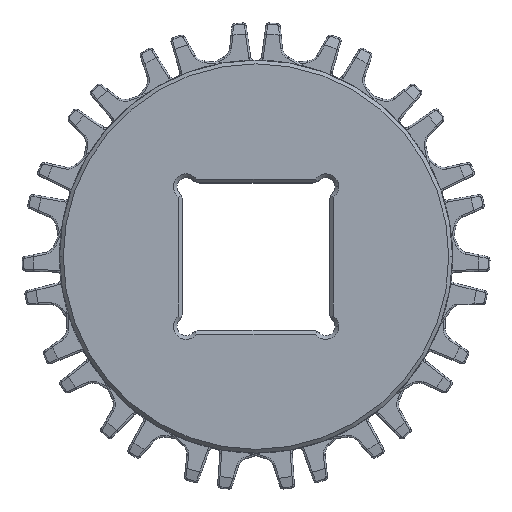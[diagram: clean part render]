
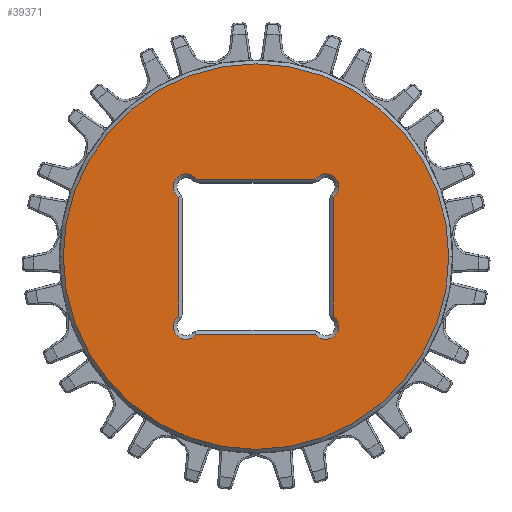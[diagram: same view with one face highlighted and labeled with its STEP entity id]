
A CAD part, top view. The second image highlights one B-rep face of the part: STEP entity #39371.
In plain terms, the highlighted planar face has unit normal (0, 0, 1).
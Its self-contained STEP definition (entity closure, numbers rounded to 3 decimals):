
#134 = EDGE_CURVE ( 'NONE', #33131, #5195, #1213, .T. ) ;
#226 = PLANE ( 'NONE',  #16762 ) ;
#416 = DIRECTION ( 'NONE',  ( 0., 0., 1. ) ) ;
#1213 = LINE ( 'NONE', #40189, #36741 ) ;
#1322 = VERTEX_POINT ( 'NONE', #5940 ) ;
#1722 = CARTESIAN_POINT ( 'NONE',  ( -16.21, -21.1, 12.5 ) ) ;
#2554 = ORIENTED_EDGE ( 'NONE', *, *, #38477, .T. ) ;
#2753 = ORIENTED_EDGE ( 'NONE', *, *, #31483, .T. ) ;
#2982 = ORIENTED_EDGE ( 'NONE', *, *, #19432, .T. ) ;
#2991 = DIRECTION ( 'NONE',  ( 0., 0., -1. ) ) ;
#3029 = CARTESIAN_POINT ( 'NONE',  ( 19.039, -19.039, 12.5 ) ) ;
#3039 = VERTEX_POINT ( 'NONE', #8738 ) ;
#3545 = CARTESIAN_POINT ( 'NONE',  ( 22.539, -19.039, 12.5 ) ) ;
#4918 = AXIS2_PLACEMENT_3D ( 'NONE', #14673, #27992, #41724 ) ;
#5195 = VERTEX_POINT ( 'NONE', #1722 ) ;
#5271 = CIRCLE ( 'NONE', #23607, 3.5 ) ;
#5940 = CARTESIAN_POINT ( 'NONE',  ( 22.539, 19.039, 12.5 ) ) ;
#6033 = EDGE_CURVE ( 'NONE', #3039, #20236, #19074, .T. ) ;
#6408 = CARTESIAN_POINT ( 'NONE',  ( -0.004, -0.001, 12.5 ) ) ;
#6925 = LINE ( 'NONE', #25524, #15022 ) ;
#6945 = EDGE_LOOP ( 'NONE', ( #31752, #30638 ) ) ;
#7321 = CARTESIAN_POINT ( 'NONE',  ( -0.004, -0.001, 12.5 ) ) ;
#8237 = CARTESIAN_POINT ( 'NONE',  ( -19.039, -19.039, 12.5 ) ) ;
#8738 = CARTESIAN_POINT ( 'NONE',  ( -52.538, -0.001, 12.5 ) ) ;
#9526 = VERTEX_POINT ( 'NONE', #43335 ) ;
#9810 = CIRCLE ( 'NONE', #36914, 3.5 ) ;
#10173 = CARTESIAN_POINT ( 'NONE',  ( -19.039, 19.039, 12.5 ) ) ;
#10195 = VERTEX_POINT ( 'NONE', #44237 ) ;
#10942 = ORIENTED_EDGE ( 'NONE', *, *, #37783, .T. ) ;
#11383 = DIRECTION ( 'NONE',  ( 1., 0., 0. ) ) ;
#11923 = FACE_OUTER_BOUND ( 'NONE', #6945, .T. ) ;
#12799 = VECTOR ( 'NONE', #15060, 1000. ) ;
#13268 = EDGE_CURVE ( 'NONE', #30523, #39311, #19638, .T. ) ;
#14643 = FACE_BOUND ( 'NONE', #21068, .T. ) ;
#14673 = CARTESIAN_POINT ( 'NONE',  ( 19.039, 19.039, 12.5 ) ) ;
#14756 = AXIS2_PLACEMENT_3D ( 'NONE', #37887, #20673, #28919 ) ;
#14868 = DIRECTION ( 'NONE',  ( 1., 0., 0. ) ) ;
#15022 = VECTOR ( 'NONE', #24911, 1000. ) ;
#15060 = DIRECTION ( 'NONE',  ( 0., -1., 0. ) ) ;
#15301 = VECTOR ( 'NONE', #39171, 1000. ) ;
#16131 = DIRECTION ( 'NONE',  ( 1., 0., 0. ) ) ;
#16584 = LINE ( 'NONE', #18554, #12799 ) ;
#16762 = AXIS2_PLACEMENT_3D ( 'NONE', #6408, #41113, #27672 ) ;
#17215 = EDGE_CURVE ( 'NONE', #23342, #9526, #6925, .T. ) ;
#17379 = CIRCLE ( 'NONE', #44043, 3.5 ) ;
#17649 = ORIENTED_EDGE ( 'NONE', *, *, #13268, .T. ) ;
#18508 = DIRECTION ( 'NONE',  ( 0., 0., -1. ) ) ;
#18554 = CARTESIAN_POINT ( 'NONE',  ( 21.1, -16.775, 12.5 ) ) ;
#19074 = CIRCLE ( 'NONE', #14756, 52.534 ) ;
#19432 = EDGE_CURVE ( 'NONE', #1322, #10195, #25250, .T. ) ;
#19638 = CIRCLE ( 'NONE', #31198, 3.5 ) ;
#20130 = CARTESIAN_POINT ( 'NONE',  ( -16.21, 21.1, 12.5 ) ) ;
#20236 = VERTEX_POINT ( 'NONE', #38559 ) ;
#20510 = CARTESIAN_POINT ( 'NONE',  ( 21.1, -16.21, 12.5 ) ) ;
#20535 = ORIENTED_EDGE ( 'NONE', *, *, #134, .T. ) ;
#20673 = DIRECTION ( 'NONE',  ( 0., 0., 1. ) ) ;
#20980 = VERTEX_POINT ( 'NONE', #34042 ) ;
#21068 = EDGE_LOOP ( 'NONE', ( #24843, #2982, #36308, #17649, #2554, #20535, #34260, #2753, #10942, #30520 ) ) ;
#21709 = CARTESIAN_POINT ( 'NONE',  ( 19.039, -19.039, 12.5 ) ) ;
#22158 = DIRECTION ( 'NONE',  ( 1., 0., 0. ) ) ;
#22464 = DIRECTION ( 'NONE',  ( 0., 0., -1. ) ) ;
#23342 = VERTEX_POINT ( 'NONE', #20130 ) ;
#23607 = AXIS2_PLACEMENT_3D ( 'NONE', #25019, #31900, #14868 ) ;
#24252 = DIRECTION ( 'NONE',  ( 1., 0., 0. ) ) ;
#24843 = ORIENTED_EDGE ( 'NONE', *, *, #43837, .T. ) ;
#24911 = DIRECTION ( 'NONE',  ( 1., 0., 0. ) ) ;
#25019 = CARTESIAN_POINT ( 'NONE',  ( 19.039, 19.039, 12.5 ) ) ;
#25250 = CIRCLE ( 'NONE', #4918, 3.5 ) ;
#25524 = CARTESIAN_POINT ( 'NONE',  ( 16.775, 21.1, 12.5 ) ) ;
#25780 = AXIS2_PLACEMENT_3D ( 'NONE', #7321, #416, #24252 ) ;
#26127 = LINE ( 'NONE', #35787, #15301 ) ;
#26135 = CARTESIAN_POINT ( 'NONE',  ( -21.1, -16.21, 12.5 ) ) ;
#27585 = CIRCLE ( 'NONE', #25780, 52.534 ) ;
#27672 = DIRECTION ( 'NONE',  ( 1., 0., 0. ) ) ;
#27992 = DIRECTION ( 'NONE',  ( 0., 0., -1. ) ) ;
#28919 = DIRECTION ( 'NONE',  ( 1., 0., 0. ) ) ;
#29305 = CIRCLE ( 'NONE', #36335, 3.5 ) ;
#30003 = DIRECTION ( 'NONE',  ( 0., 0., -1. ) ) ;
#30520 = ORIENTED_EDGE ( 'NONE', *, *, #17215, .T. ) ;
#30523 = VERTEX_POINT ( 'NONE', #20510 ) ;
#30638 = ORIENTED_EDGE ( 'NONE', *, *, #40311, .T. ) ;
#31198 = AXIS2_PLACEMENT_3D ( 'NONE', #21709, #18508, #11383 ) ;
#31483 = EDGE_CURVE ( 'NONE', #34004, #20980, #26127, .T. ) ;
#31752 = ORIENTED_EDGE ( 'NONE', *, *, #6033, .T. ) ;
#31897 = CARTESIAN_POINT ( 'NONE',  ( 16.21, -21.1, 12.5 ) ) ;
#31900 = DIRECTION ( 'NONE',  ( 0., 0., -1. ) ) ;
#33131 = VERTEX_POINT ( 'NONE', #31897 ) ;
#33196 = DIRECTION ( 'NONE',  ( -1., 0., 0. ) ) ;
#34004 = VERTEX_POINT ( 'NONE', #26135 ) ;
#34042 = CARTESIAN_POINT ( 'NONE',  ( -21.1, 16.21, 12.5 ) ) ;
#34260 = ORIENTED_EDGE ( 'NONE', *, *, #38864, .T. ) ;
#35787 = CARTESIAN_POINT ( 'NONE',  ( -21.1, 16.775, 12.5 ) ) ;
#36308 = ORIENTED_EDGE ( 'NONE', *, *, #43586, .T. ) ;
#36335 = AXIS2_PLACEMENT_3D ( 'NONE', #3029, #30003, #16131 ) ;
#36741 = VECTOR ( 'NONE', #33196, 1000. ) ;
#36914 = AXIS2_PLACEMENT_3D ( 'NONE', #8237, #22464, #22158 ) ;
#37391 = DIRECTION ( 'NONE',  ( 1., 0., 0. ) ) ;
#37783 = EDGE_CURVE ( 'NONE', #20980, #23342, #17379, .T. ) ;
#37887 = CARTESIAN_POINT ( 'NONE',  ( -0.004, -0.001, 12.5 ) ) ;
#38477 = EDGE_CURVE ( 'NONE', #39311, #33131, #29305, .T. ) ;
#38559 = CARTESIAN_POINT ( 'NONE',  ( 52.531, -0.001, 12.5 ) ) ;
#38864 = EDGE_CURVE ( 'NONE', #5195, #34004, #9810, .T. ) ;
#39171 = DIRECTION ( 'NONE',  ( 0., 1., 0. ) ) ;
#39311 = VERTEX_POINT ( 'NONE', #3545 ) ;
#39371 = ADVANCED_FACE ( 'NONE', ( #11923, #14643 ), #226, .T. ) ;
#40189 = CARTESIAN_POINT ( 'NONE',  ( -16.775, -21.1, 12.5 ) ) ;
#40311 = EDGE_CURVE ( 'NONE', #20236, #3039, #27585, .T. ) ;
#41113 = DIRECTION ( 'NONE',  ( 0., 0., 1. ) ) ;
#41724 = DIRECTION ( 'NONE',  ( 1., 0., 0. ) ) ;
#43335 = CARTESIAN_POINT ( 'NONE',  ( 16.21, 21.1, 12.5 ) ) ;
#43586 = EDGE_CURVE ( 'NONE', #10195, #30523, #16584, .T. ) ;
#43837 = EDGE_CURVE ( 'NONE', #9526, #1322, #5271, .T. ) ;
#44043 = AXIS2_PLACEMENT_3D ( 'NONE', #10173, #2991, #37391 ) ;
#44237 = CARTESIAN_POINT ( 'NONE',  ( 21.1, 16.21, 12.5 ) ) ;
